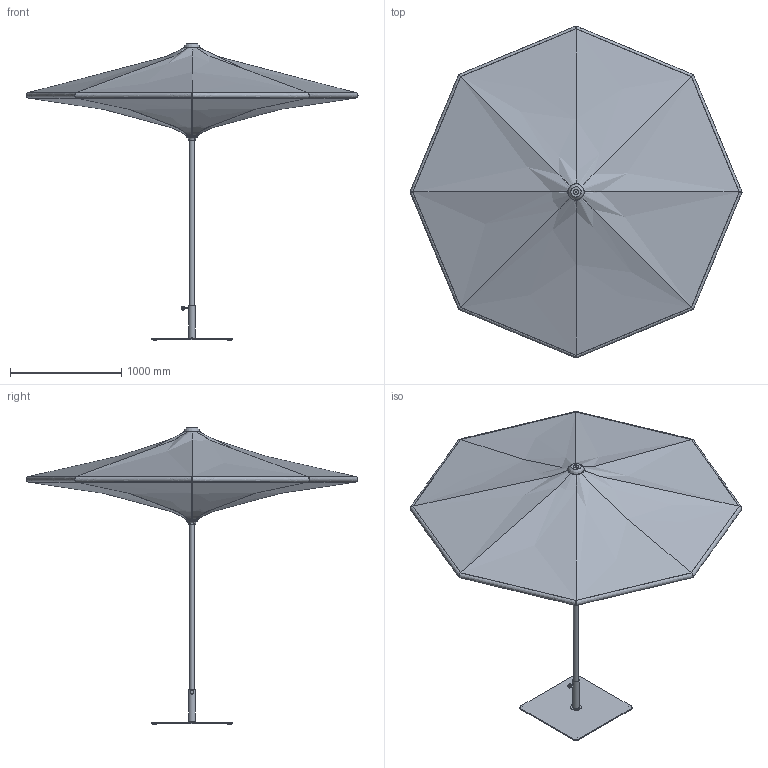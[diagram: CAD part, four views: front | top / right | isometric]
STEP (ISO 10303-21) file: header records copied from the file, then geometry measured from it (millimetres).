
FILE_DESCRIPTION(/* description */ ('OMBRELLONE PLANT D300'),/* implementation_level */ '2;1');
FILE_NAME(/* name */ 'D:\PAGODA\_STP\PGD#000350ABD7XXXXXSS000.stp',/* time_stamp */ '2022-12-02T08:47:31+01:00',/* author */ ('MB'),/* organization */ (''),/* preprocessor_version */ 'ST-DEVELOPER v18.1',/* originating_system */ 'Autodesk Inventor 2021',/* authorisation */ '');
FILE_SCHEMA (('AUTOMOTIVE_DESIGN { 1 0 10303 214 3 1 1 }'));
Length unit declared in the file: millimetre
Products named in the file (9): !EALLU007300!; !CTOPO000300!; !PTUBO001700!; !GCMIC002500!; !GCNLC000100!; !CFLAN003400!; !CFLAN003200!; !CFLAN003300!; BASE PIASTRA KG50 C_T INOX
Assembly tree (8 placements, depth 3):
  !EALLU007300!
    !CTOPO000300!
    !PTUBO001700!
    !GCMIC002500!
    !GCNLC000100!
    !CFLAN003400!
      !CFLAN003200!
      !CFLAN003300!
    BASE PIASTRA KG50 C_T INOX
Bounding box: 2982.2 x 2982.2 x 2667.4 mm (x, y, z)
Volume: 716379649.3 mm3; surface area: 28243640.1 mm2
Topology: 7 solids, 7 shells, 317 faces, 778 edges, 444 vertices
Faces by surface type: bspline 130, plane 66, cylinder 56, torus 41, cone 16, sphere 8
Full cylindrical faces by diameter (mm): 4.5 x1, 5 x2, 6.5 x1, 7 x1, 8.5 x1, 9.7 x2, 15 x1, 46 x1, 50 x1, 60 x1, 96 x1, 148 x1
Entity records: 18421 total; most frequent: CARTESIAN_POINT 11485, ORIENTED_EDGE 1460, DIRECTION 1143, EDGE_CURVE 730, AXIS2_PLACEMENT_3D 472, VERTEX_POINT 444, EDGE_LOOP 346, FACE_OUTER_BOUND 317
